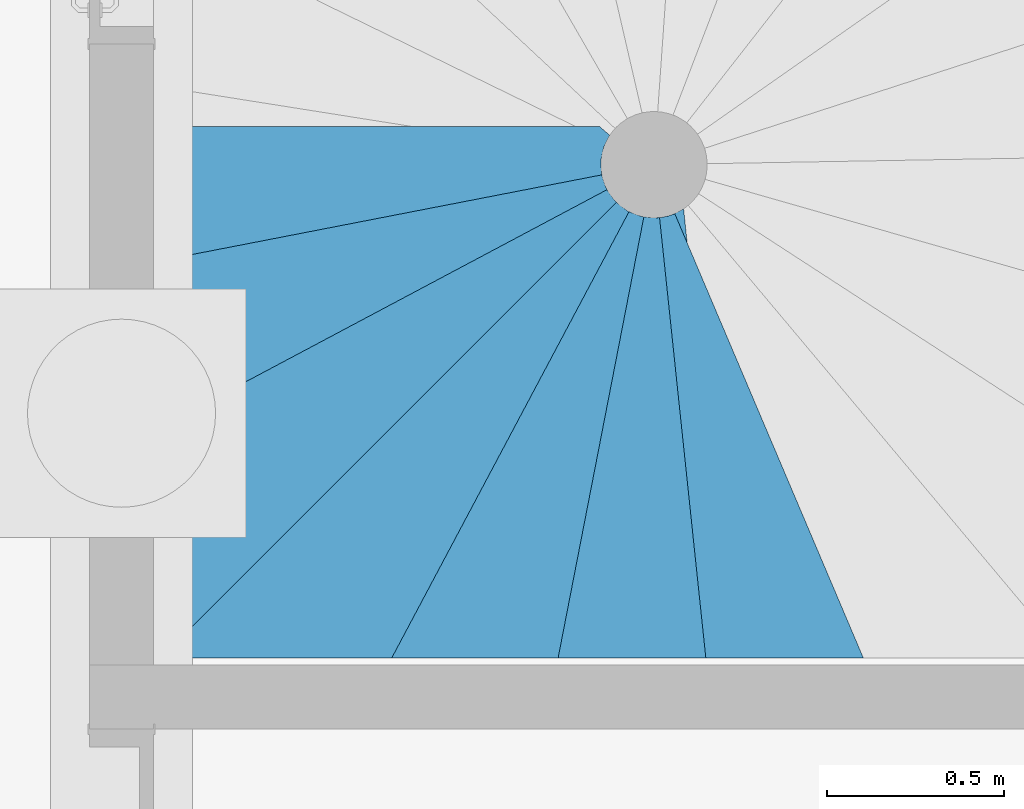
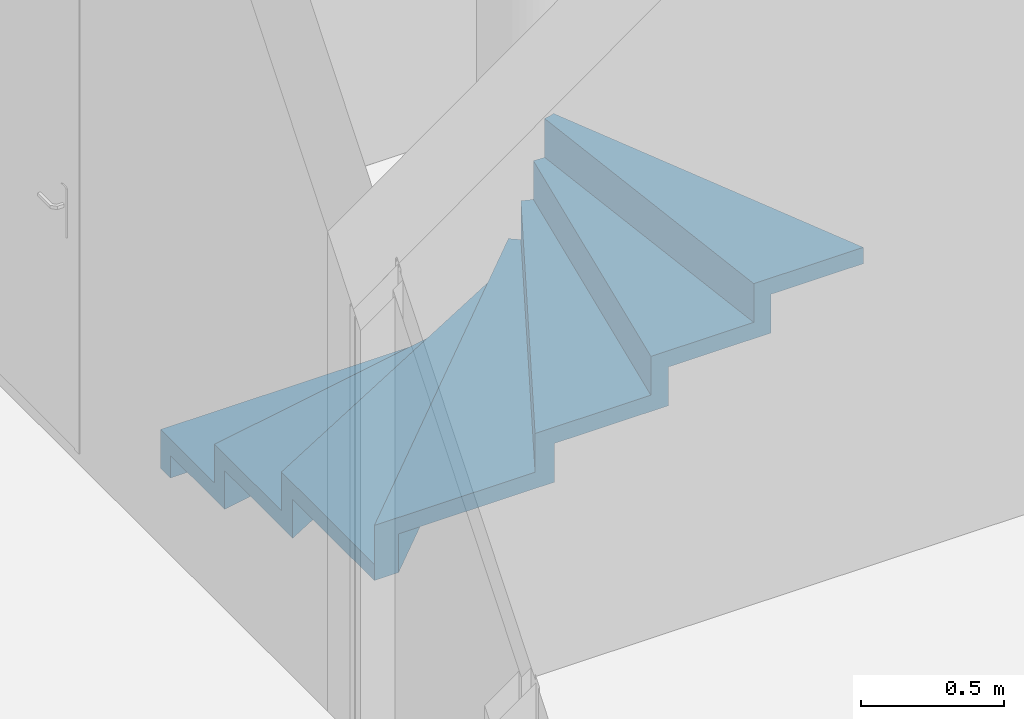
# One storey, part 13 of 14: 1 stair, 1 element without a shape of its own.
"""IFC2X3 building model written with IfcOpenShell, lengths in centimetres."""

from ifc_helpers import new_model, entity, si_unit, converted_unit, derived_unit, direction, frame, origin, place, context, subcontext, project, spatial, faceted_brep, material, element, aggregate, save


model = new_model("IFC2X3")

# Units and contexts
model_context = context("Model", 3, precision=0.001, world=origin(), true_north=direction((6.12303176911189e-17, 1.0)))
body_context = subcontext(model_context, "Body", "Model", "MODEL_VIEW")
ifc_project = project(units=[si_unit("LENGTHUNIT", "METRE", prefix="CENTI"), si_unit("AREAUNIT", "SQUARE_METRE"), si_unit("VOLUMEUNIT", "CUBIC_METRE"), converted_unit("PLANEANGLEUNIT", "DEGREE", entity("IfcRatioMeasure", 0.0174532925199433), si_unit("PLANEANGLEUNIT", "RADIAN"), dimensions=[0, 0, 0, 0, 0, 0, 0]), si_unit("MASSUNIT", "GRAM", prefix="KILO"), derived_unit("MASSDENSITYUNIT", [(si_unit("MASSUNIT", "GRAM", prefix="KILO"), 1), (si_unit("LENGTHUNIT", "METRE"), -3)]), si_unit("TIMEUNIT", "SECOND"), si_unit("FREQUENCYUNIT", "HERTZ"), si_unit("THERMODYNAMICTEMPERATUREUNIT", "DEGREE_CELSIUS"), derived_unit("THERMALTRANSMITTANCEUNIT", [(si_unit("MASSUNIT", "GRAM", prefix="KILO"), 1), (si_unit("THERMODYNAMICTEMPERATUREUNIT", "KELVIN"), -1), (si_unit("TIMEUNIT", "SECOND"), -3)]), derived_unit("VOLUMETRICFLOWRATEUNIT", [(si_unit("LENGTHUNIT", "METRE"), 3), (si_unit("TIMEUNIT", "SECOND"), -1)]), si_unit("ELECTRICCURRENTUNIT", "AMPERE"), si_unit("ELECTRICVOLTAGEUNIT", "VOLT"), si_unit("POWERUNIT", "WATT"), si_unit("FORCEUNIT", "NEWTON"), si_unit("ILLUMINANCEUNIT", "LUX"), si_unit("LUMINOUSFLUXUNIT", "LUMEN"), si_unit("LUMINOUSINTENSITYUNIT", "CANDELA"), derived_unit("USERDEFINED", [(si_unit("MASSUNIT", "GRAM", prefix="KILO"), -1), (si_unit("LENGTHUNIT", "METRE"), -2), (si_unit("TIMEUNIT", "SECOND"), 3), (si_unit("LUMINOUSFLUXUNIT", "LUMEN"), 1)]), derived_unit("LINEARVELOCITYUNIT", [(si_unit("LENGTHUNIT", "METRE"), 1), (si_unit("TIMEUNIT", "SECOND"), -1)]), si_unit("PRESSUREUNIT", "PASCAL"), derived_unit("USERDEFINED", [(si_unit("LENGTHUNIT", "METRE"), -2), (si_unit("MASSUNIT", "GRAM", prefix="KILO"), 1), (si_unit("TIMEUNIT", "SECOND"), -2)])], contexts=[model_context])

# Site, building, storey
site_placement = place(None, origin())
site = spatial("IfcSite", under=ifc_project, at=site_placement, Name="Default", CompositionType="ELEMENT")
building_placement = place(site_placement, origin())
building = spatial("IfcBuilding", under=site, at=building_placement, Name="CAGE 03", CompositionType="ELEMENT")
storey_placement = place(building_placement, frame((0.0, 0.0, -42.0)))
storey = spatial("IfcBuildingStorey", under=building, at=storey_placement, Name="+3.58", CompositionType="ELEMENT", Elevation=-42.0000000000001)

# Stairs
stair_1_placement = place(storey_placement, frame((10210.3658201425, 4652.66066607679, 0.0)))
stair_1 = element("IfcStair", 1, at=stair_1_placement, inside=storey, Name="Escalier:Monobloc-générique", ObjectType="Escalier:Monobloc-générique", ShapeType="NOTDEFINED")
ifc_material = material(Name="Béton, C25/30")
stair_2_placement = place(stair_1_placement, origin())
stair_2 = element("IfcStair", 2, at=stair_2_placement, material=ifc_material, Name="Escalier:Monobloc-générique", ObjectType="Escalier:Monobloc-générique", ShapeType="NOTDEFINED", context=body_context, shape_type="Brep", body=[
    faceted_brep([(127.315358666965, 129.594195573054, 16.5714285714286), (125.330775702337, 132.823244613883, 16.5714285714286), (124.218916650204, 136.446654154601, 16.5714285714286), (124.050769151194, 140.23308435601, 16.5714285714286), (124.837068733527, 143.940787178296, 16.5714285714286), (126.527613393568, 147.333041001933, 16.5714285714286), (125.06492172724, 148.531976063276, 16.5714285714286), (123.669290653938, 149.808348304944, 16.5714285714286), (0.0, 149.808348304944, 16.5714285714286), (0.0, 104.846596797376, 16.5714285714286), (125.06492172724, 148.531976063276, 9.57142857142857), (126.527613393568, 147.333041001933, 9.57142857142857), (124.837068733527, 143.940787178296, 9.57142857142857), (124.050769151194, 140.23308435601, 9.57142857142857), (124.218916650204, 136.446654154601, 9.57142857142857), (125.330775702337, 132.823244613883, 9.57142857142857), (127.315358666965, 129.594195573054, 9.57142857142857), (0.0, 104.846596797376, 9.57142857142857), (0.0, 149.808348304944, 9.57142857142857), (123.669290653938, 149.808348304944, 9.57142857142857)], [[[0, 1, 2, 3, 4, 5, 6, 7, 8, 9]], [[10, 11, 12, 13, 14, 15, 16, 17, 18, 19]], [[1, 0, 16, 15]], [[2, 1, 15, 14]], [[14, 13, 3, 2]], [[12, 11, 5, 4]], [[12, 4, 3, 13]], [[9, 8, 18, 17]], [[8, 7, 19, 18]], [[11, 10, 6, 5]], [[19, 7, 6, 10]], [[0, 9, 17, 16]]]),
    faceted_brep([(0.0, 111.977613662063, 33.1428571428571), (0.0, 57.1637563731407, 33.1428571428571), (130.573207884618, 126.590762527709, 33.1428571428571), (127.659592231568, 129.181896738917, 33.1428571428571), (125.512242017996, 132.436435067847, 33.1428571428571), (124.276252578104, 136.134470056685, 33.1428571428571), (125.512242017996, 132.436435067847, 26.1428571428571), (127.659592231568, 129.181896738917, 26.1428571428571), (130.573207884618, 126.590762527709, 26.1428571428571), (0.0, 57.1637563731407, 26.1428571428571), (0.0, 111.977613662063, 26.1428571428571), (124.276252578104, 136.134470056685, 26.1428571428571)], [[[0, 1, 2, 3, 4, 5]], [[6, 7, 8, 9, 10, 11]], [[8, 7, 3, 2]], [[7, 6, 4, 3]], [[11, 5, 4, 6]], [[1, 0, 10, 9]], [[0, 5, 11, 10]], [[2, 1, 9, 8]]]),
    faceted_brep([(0.0, 0.0, 49.7142857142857), (9.90174667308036, 0.0, 49.7142857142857), (134.570635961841, 124.668889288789, 49.7142857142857), (131.025487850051, 126.29538839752, 49.7142857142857), (128.019543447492, 128.780921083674, 49.7142857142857), (125.756052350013, 131.957425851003, 49.7142857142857), (0.0, 65.0917467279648, 49.7142857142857), (128.019543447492, 128.780921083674, 42.7142857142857), (131.025487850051, 126.29538839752, 42.7142857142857), (134.570635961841, 124.668889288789, 42.7142857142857), (9.90174667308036, 0.0, 42.7142857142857), (0.0, 0.0, 42.7142857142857), (0.0, 65.0917467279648, 42.7142857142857), (125.756052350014, 131.957425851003, 42.7142857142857)], [[[0, 1, 2, 3, 4, 5, 6]], [[7, 8, 9, 10, 11, 12, 13]], [[1, 0, 11, 10]], [[9, 8, 3, 2]], [[8, 7, 4, 3]], [[13, 5, 4, 7]], [[0, 6, 12, 11]], [[2, 1, 10, 9]], [[6, 5, 13, 12]]]),
    faceted_brep([(128.394524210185, 128.392272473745, 66.2857142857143), (0.00225173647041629, 0.0, 66.2857142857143), (73.0231860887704, 0.0, 66.2857142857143), (138.955191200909, 124.000066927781, 66.2857142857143), (135.089379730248, 124.518734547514, 66.2857142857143), (131.487987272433, 126.01656190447, 66.2857142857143), (131.487987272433, 126.01656190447, 59.2857142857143), (135.089379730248, 124.518734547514, 59.2857142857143), (138.955191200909, 124.000066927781, 59.2857142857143), (73.0231860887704, 0.0, 59.2857142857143), (0.00225173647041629, 0.0, 59.2857142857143), (128.394524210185, 128.392272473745, 59.2857142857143)], [[[0, 1, 2, 3, 4, 5]], [[6, 7, 8, 9, 10, 11]], [[2, 1, 10, 9]], [[8, 7, 4, 3]], [[7, 6, 5, 4]], [[11, 0, 5, 6]], [[3, 2, 9, 8]], [[1, 0, 11, 10]]]),
    faceted_brep([(131.960114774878, 125.754622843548, 82.8571428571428), (65.0951957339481, 0.0, 82.8571428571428), (119.115333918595, 0.0, 82.8571428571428), (143.343401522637, 124.64260249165, 82.8571428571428), (139.494947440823, 124.008167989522, 82.8571428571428), (135.61302807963, 124.387388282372, 82.8571428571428), (131.960114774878, 125.754622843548, 75.8571428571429), (135.61302807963, 124.387388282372, 75.8571428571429), (139.494947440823, 124.008167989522, 75.8571428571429), (143.343401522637, 124.64260249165, 75.8571428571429), (119.115333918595, 0.0, 75.8571428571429), (65.0951957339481, 0.0, 75.8571428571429)], [[[0, 1, 2, 3, 4, 5]], [[6, 7, 8, 9, 10, 11]], [[9, 8, 4, 3]], [[8, 7, 5, 4]], [[6, 0, 5, 7]], [[2, 1, 11, 10]], [[3, 2, 10, 9]], [[1, 0, 6, 11]]]),
    faceted_brep([(111.984317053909, 0.0, 99.4285714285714), (160.651525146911, 0.0, 99.4285714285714), (147.351629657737, 126.540052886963, 99.4285714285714), (143.856951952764, 124.808100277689, 99.4285714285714), (140.033891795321, 124.03567349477, 99.4285714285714), (136.140929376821, 124.274996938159, 99.4285714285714), (143.856951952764, 124.808100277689, 92.4285714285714), (147.351629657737, 126.540052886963, 92.4285714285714), (160.651525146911, 0.0, 92.4285714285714), (111.984317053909, 0.0, 92.4285714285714), (136.140929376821, 124.274996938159, 92.4285714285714), (140.033891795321, 124.03567349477, 92.4285714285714)], [[[0, 1, 2, 3, 4, 5]], [[6, 7, 8, 9, 10, 11]], [[7, 6, 3, 2]], [[6, 11, 4, 3]], [[10, 5, 4, 11]], [[1, 0, 9, 8]], [[2, 1, 8, 7]], [[0, 5, 10, 9]]]),
    faceted_brep([(153.612967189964, 0.0, 116.0), (198.005756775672, 0.0, 116.0), (144.864150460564, 125.193778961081, 116.0), (142.759048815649, 124.47865185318, 116.0), (140.571367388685, 124.082533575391, 116.0), (142.759048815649, 124.47865185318, 109.0), (144.864150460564, 125.193778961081, 109.0), (198.005756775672, 0.0, 109.0), (153.612967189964, 0.0, 109.0), (140.571367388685, 124.082533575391, 109.0)], [[[0, 1, 2, 3, 4]], [[5, 6, 7, 8, 9]], [[5, 3, 2, 6]], [[9, 4, 3, 5]], [[0, 4, 9, 8]], [[1, 0, 8, 7]], [[2, 1, 7, 6]]]),
    faceted_brep([(123.669290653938, 149.808348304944, 0.0), (123.669290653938, 149.808348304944, 9.57142857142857), (125.06492172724, 148.531976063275, 9.57142857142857), (125.06492172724, 148.531976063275, 0.0), (126.527613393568, 147.333041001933, 9.57142857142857), (126.527613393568, 147.333041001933, 0.0), (122.298948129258, 146.320492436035, 0.0), (124.874668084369, 144.047276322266, 0.0), (120.989420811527, 142.808348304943, 0.0), (122.503048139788, 141.597558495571, 0.0), (124.071030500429, 140.45803624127, 0.0), (0.0, 149.808348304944, 0.0), (0.0, 142.808348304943, 0.0), (122.503048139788, 141.597558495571, 9.57142857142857), (120.989420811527, 142.808348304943, 9.57142857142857), (124.071030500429, 140.45803624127, 9.57142857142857), (122.29894812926, 146.320492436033, 9.57142857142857), (124.874668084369, 144.047276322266, 9.57142857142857), (0.0, 149.808348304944, 9.57142857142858), (0.0, 142.808348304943, 9.57142857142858)], [[[0, 1, 2, 3]], [[4, 5, 3, 2]], [[3, 5, 6]], [[6, 0, 3]], [[5, 7, 6]], [[8, 6, 7]], [[7, 9, 8]], [[9, 7, 10]], [[6, 8, 11]], [[12, 11, 8]], [[0, 6, 11]], [[8, 9, 13, 14]], [[13, 9, 10, 15]], [[16, 4, 2]], [[16, 17, 4]], [[2, 1, 16]], [[17, 16, 14]], [[16, 1, 18]], [[14, 16, 18]], [[18, 19, 14]], [[14, 13, 17]], [[15, 17, 13]], [[11, 18, 1, 0]], [[19, 12, 8, 14]], [[18, 11, 12, 19]], [[10, 7, 17, 15]], [[5, 4, 17, 7]]]),
    faceted_brep([(0.0, 111.977613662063, 26.1428571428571), (0.0, 111.977613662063, 16.5714285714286), (0.0, 104.846596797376, 16.5714285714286), (0.0, 104.846596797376, 26.1428571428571), (127.315358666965, 129.594195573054, 16.5714285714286), (125.396892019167, 132.678967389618, 16.5714285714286), (125.396892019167, 132.678967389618, 26.1428571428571), (127.315358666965, 129.594195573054, 26.1428571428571), (124.276252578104, 136.134470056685, 16.5714285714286), (124.276252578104, 136.134470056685, 26.1428571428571)], [[[0, 1, 2, 3]], [[4, 5, 6, 7]], [[8, 9, 6, 5]], [[1, 0, 9, 8]], [[2, 1, 8, 5, 4]], [[3, 2, 4, 7]], [[0, 3, 7, 6, 9]]]),
    faceted_brep([(0.0, 65.0917467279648, 42.7142857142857), (0.0, 65.0917467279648, 33.1428571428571), (0.0, 57.1637563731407, 33.1428571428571), (0.0, 57.1637563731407, 42.7142857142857), (130.573207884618, 126.590762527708, 33.1428571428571), (127.837316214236, 128.980294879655, 33.1428571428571), (127.837316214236, 128.980294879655, 42.7142857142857), (130.573207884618, 126.590762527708, 42.7142857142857), (125.756052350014, 131.957425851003, 33.1428571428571), (125.756052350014, 131.957425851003, 42.7142857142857)], [[[0, 1, 2, 3]], [[4, 5, 6, 7]], [[8, 9, 6, 5]], [[1, 0, 9, 8]], [[2, 1, 8, 5, 4]], [[3, 2, 4, 7]], [[0, 3, 7, 6, 9]]]),
    faceted_brep([(9.90174667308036, 0.0, 59.2857142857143), (0.00225173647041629, 0.0, 59.2857142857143), (0.00225173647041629, 0.0, 49.7142857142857), (9.90174667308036, 0.0, 49.7142857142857), (134.570635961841, 124.668889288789, 49.7142857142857), (131.255485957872, 126.15389155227, 49.7142857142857), (131.255485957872, 126.15389155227, 59.2857142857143), (134.570635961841, 124.668889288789, 59.2857142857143), (128.394524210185, 128.392272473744, 49.7142857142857), (128.394524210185, 128.392272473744, 59.2857142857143)], [[[0, 1, 2, 3]], [[4, 5, 6, 7]], [[8, 9, 6, 5]], [[2, 1, 9, 8]], [[3, 2, 8, 5, 4]], [[0, 3, 4, 7]], [[1, 0, 7, 6, 9]]]),
    faceted_brep([(73.0231860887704, 0.0, 75.8571428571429), (65.0951957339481, 0.0, 75.8571428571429), (65.0951957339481, 0.0, 66.2857142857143), (73.0231860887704, 0.0, 66.2857142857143), (138.955191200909, 124.000066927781, 66.2857142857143), (135.350638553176, 124.450698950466, 66.2857142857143), (135.350638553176, 124.450698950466, 75.8571428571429), (138.955191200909, 124.000066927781, 75.8571428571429), (131.960114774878, 125.754622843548, 66.2857142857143), (131.960114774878, 125.754622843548, 75.8571428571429)], [[[0, 1, 2, 3]], [[4, 5, 6, 7]], [[8, 9, 6, 5]], [[2, 1, 9, 8]], [[3, 2, 8, 5, 4]], [[0, 3, 4, 7]], [[1, 0, 7, 6, 9]]]),
    faceted_brep([(119.115333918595, 0.0, 92.4285714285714), (111.984317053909, 0.0, 92.4285714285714), (111.984317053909, 0.0, 82.8571428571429), (119.115333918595, 0.0, 82.8571428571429), (143.343401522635, 124.64260249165, 82.8571428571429), (139.764586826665, 124.019499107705, 82.8571428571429), (139.764586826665, 124.019499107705, 92.4285714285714), (143.343401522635, 124.64260249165, 92.4285714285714), (136.140929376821, 124.274996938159, 82.8571428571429), (136.140929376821, 124.274996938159, 92.4285714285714)], [[[0, 1, 2, 3]], [[4, 5, 6, 7]], [[8, 9, 6, 5]], [[2, 1, 9, 8]], [[3, 2, 8, 5, 4]], [[0, 3, 4, 7]], [[1, 0, 7, 6, 9]]]),
    faceted_brep([(160.651525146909, 0.0, 109.0), (153.612967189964, 0.0, 109.0), (153.612967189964, 0.0, 99.4285714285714), (160.651525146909, 0.0, 99.4285714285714), (147.351629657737, 126.540052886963, 99.4285714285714), (144.11139099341, 124.897741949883, 99.4285714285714), (144.11139099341, 124.897741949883, 109.0), (147.351629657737, 126.540052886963, 109.0), (140.571367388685, 124.082533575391, 99.4285714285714), (140.571367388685, 124.082533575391, 109.0)], [[[0, 1, 2, 3]], [[4, 5, 6, 7]], [[8, 9, 6, 5]], [[2, 1, 9, 8]], [[3, 2, 8, 5, 4]], [[0, 3, 4, 7]], [[1, 0, 7, 6, 9]]]),
])
aggregate(stair_1, [stair_2])

save(model, "model.ifc")
